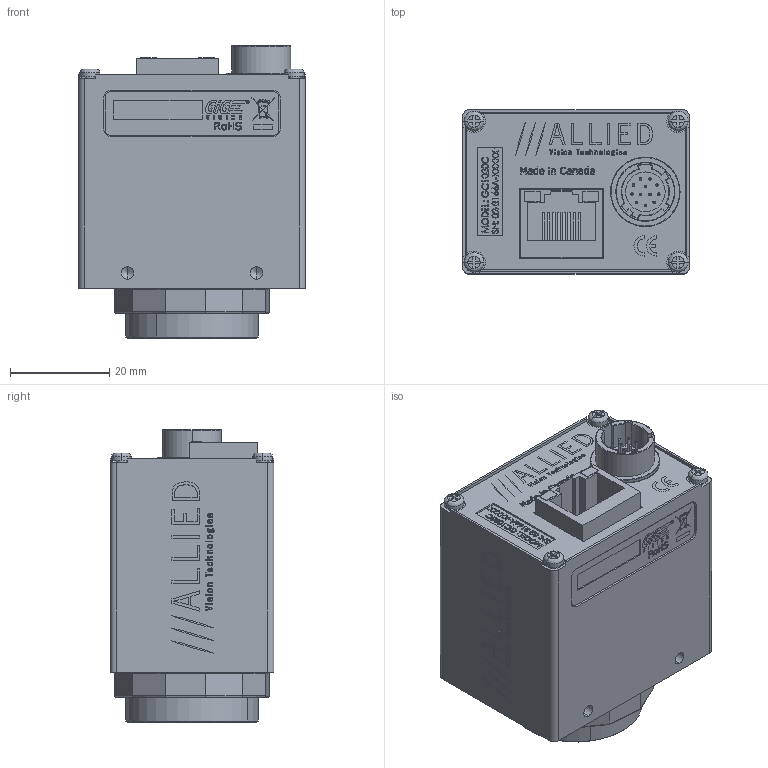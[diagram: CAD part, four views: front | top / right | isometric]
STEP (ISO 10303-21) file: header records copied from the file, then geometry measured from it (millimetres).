
FILE_DESCRIPTION (( 'STEP AP214' ), '1' );
FILE_NAME ('GC1020C.STEP', '2013-07-31T18:34:48', ( '' ), ( '' ), 'SwSTEP 2.0', 'SolidWorks 2013', '' );
FILE_SCHEMA (( 'AUTOMOTIVE_DESIGN' ));
Length unit declared in the file: millimetre
Products named in the file (23): 740058A-A GC1020C LABEL PRINT; 140023-SCREW SKT CAP M2x10 SS; 260034-HIROSE HR10A-10R-12PB; 140017-SCREW PAN M2x4 SS; 110045B-EC-CCD DUST SHIELD GASKET; 100097A-IR FILTER ASSEMBLY 0.75 INCH; 110042C GC-CCD FRONT_Finished with logo; 110054AB-IR FILTER SUPPORT; 140013-washer spring lock M2; 440002-IR CUT FILTER 22MM DIA; 110003AC-CV CMOUNT RING; 740123A-GC MAC LABEL; 200047A-A GC INTERFACE PCB ASSY; 260033-AMPHENOL RJHS-3381; GC1020C; 200055A-EC1020 COLOR PCB ASSY WITH SENSOR; 220099-SONY ICX204AK; SONY ICX204 WINDOW; SONY ICX204 BODY; 110043A GC BACK PLATE; 110043A GC BACK PLATE - WO HW; 110031A-B EC-CCD LOCKING RING; 740032B-GC MAIN LABEL
Assembly tree (27 placements, depth 4):
  GC1020C
    740123A-GC MAC LABEL
    100097A-IR FILTER ASSEMBLY 0.75 INCH
      440002-IR CUT FILTER 22MM DIA
      110054AB-IR FILTER SUPPORT
    110045B-EC-CCD DUST SHIELD GASKET
    140017-SCREW PAN M2x4 SS  x4
    260034-HIROSE HR10A-10R-12PB
    140023-SCREW SKT CAP M2x10 SS  x2
    740058A-A GC1020C LABEL PRINT
    740032B-GC MAIN LABEL
    110031A-B EC-CCD LOCKING RING
    110043A GC BACK PLATE
      110043A GC BACK PLATE - WO HW
    200055A-EC1020 COLOR PCB ASSY WITH SENSOR
      220099-SONY ICX204AK
        SONY ICX204 BODY
        SONY ICX204 WINDOW
    200047A-A GC INTERFACE PCB ASSY
      260033-AMPHENOL RJHS-3381
    110003AC-CV CMOUNT RING
    140013-washer spring lock M2  x2
    110042C GC-CCD FRONT_Finished with logo
Bounding box: 45.72 x 33.02 x 58.96 mm (x, y, z)
Volume: 22799.3 mm3; surface area: 33082.8 mm2
Topology: 22 solids, 22 shells, 3278 faces, 8618 edges, 5594 vertices
Faces by surface type: plane 1870, bspline 922, cylinder 292, cone 194
Entity records: 166061 total; most frequent: CARTESIAN_POINT 57949, ORIENTED_EDGE 16548, DIRECTION 11816, EDGE_CURVE 8274, LINE 5700, VECTOR 5700, VERTEX_POINT 5424, EDGE_LOOP 3508
